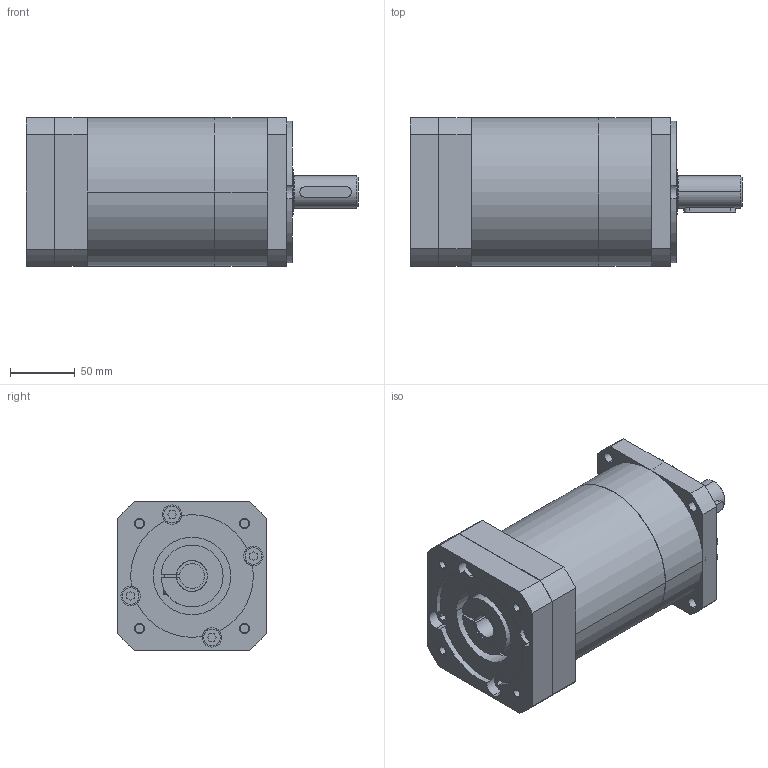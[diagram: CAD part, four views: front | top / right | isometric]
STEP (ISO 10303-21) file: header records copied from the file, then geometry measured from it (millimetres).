
FILE_DESCRIPTION((''),'2;1');
FILE_NAME('MB_PLE_MASTER','2022-06-14T',('agw'),(''),'CREO PARAMETRIC BY PTC INC, 2018360','CREO PARAMETRIC BY PTC INC, 2018360','');
FILE_SCHEMA(('AUTOMOTIVE_DESIGN { 1 0 10303 214 1 1 1 1 }'));
Length unit declared in the file: millimetre
Products named in the file (1): MB_PLE_MASTER
Bounding box: 257 x 115 x 115 mm (x, y, z)
Volume: 2222087 mm3; surface area: 151572.5 mm2
Topology: 1 solids, 6 shells, 280 faces, 680 edges, 447 vertices
Faces by surface type: plane 145, cylinder 121, torus 8, cone 6
Entity records: 8979 total; most frequent: DIRECTION 1522, CARTESIAN_POINT 1475, ORIENTED_EDGE 1336, EDGE_CURVE 678, AXIS2_PLACEMENT_3D 567, VERTEX_POINT 447, VECTOR 388, LINE 388
